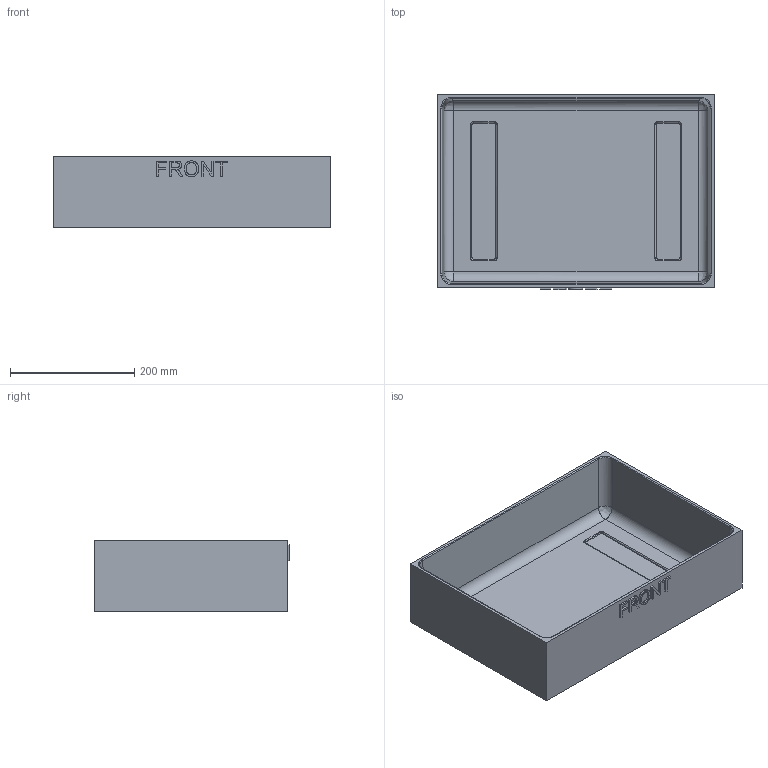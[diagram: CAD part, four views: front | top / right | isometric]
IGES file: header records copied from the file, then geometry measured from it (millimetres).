
Start section: Comment
Global section: file name: 2300-base_internal_tub.igs; native system:  By UGS Corp.; preprocessor: XPlus GENERIC/IGES 3.0; author: Author; organization: Title; date: 20100512.163332; units: millimetre
Bounding box: 444.5 x 314.32 x 114.3 mm (x, y, z)
Surface area: 591892 mm2 (no closed solid volume)
Topology: 0 solids, 0 shells, 113 faces, 634 edges, 630 vertices
Faces by surface type: bspline 113
